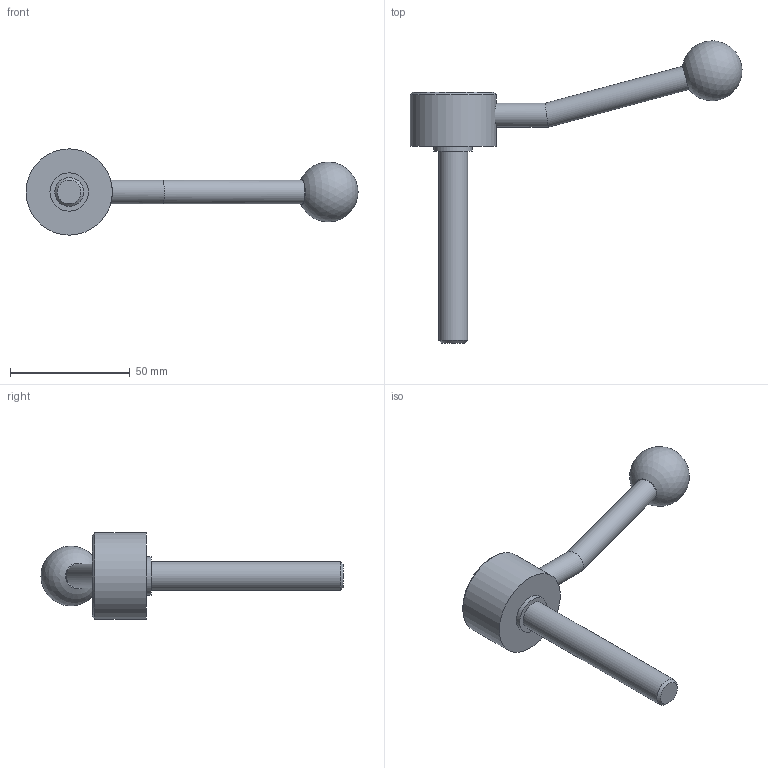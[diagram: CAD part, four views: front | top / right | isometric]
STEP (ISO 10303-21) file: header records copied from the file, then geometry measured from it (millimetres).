
FILE_DESCRIPTION( ( 'STEP AP203' ), '1' );
FILE_NAME( 'C:/Temp/Ganter_Step_05_03_2020/data/2_1/gn_125/gn_125_ms/gn_125_ms_e/Flat Adjustable Lever GN 125-36-M12-80-E.stp', '2020-03-05T11:01:00', ( 'License CC BY-ND 4.0' ), ( 'CADENAS' ), ' ', 'PARTsolutions', ' ' );
FILE_SCHEMA( ( 'CONFIG_CONTROL_DESIGN' ) );
Length unit declared in the file: millimetre
Products named in the file (1): _Flat Adjustable Lever GN 125-36-M12-80-E
Bounding box: 138.41 x 125.94 x 36 mm (x, y, z)
Volume: 46649.2 mm3; surface area: 11982.8 mm2
Topology: 1 solids, 1 shells, 15 faces, 25 edges, 16 vertices
Faces by surface type: cylinder 6, plane 6, cone 2, sphere 1
Full cylindrical faces by diameter (mm): 10 x2, 12 x1, 16 x1, 26 x1, 36 x1
Entity records: 412 total; most frequent: CARTESIAN_POINT 118, DIRECTION 58, AXIS2_PLACEMENT_3D 29, EDGE_LOOP 28, ORIENTED_EDGE 28, FACE_OUTER_BOUND 21, ADVANCED_FACE 15, VERTEX_POINT 15
